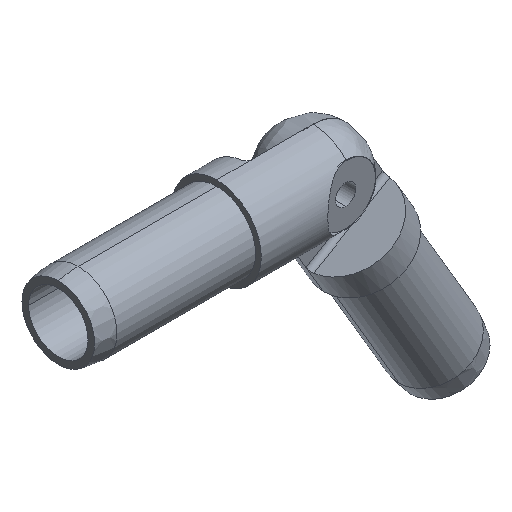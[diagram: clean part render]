
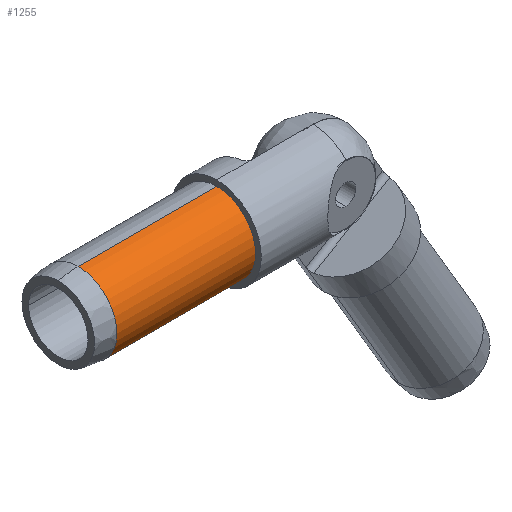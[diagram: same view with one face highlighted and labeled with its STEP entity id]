
A CAD part, isometric view. The second image highlights one B-rep face of the part: STEP entity #1255.
In plain terms, the highlighted cylindrical face has radius 12.446 mm (diameter 24.892 mm), a partial arc.
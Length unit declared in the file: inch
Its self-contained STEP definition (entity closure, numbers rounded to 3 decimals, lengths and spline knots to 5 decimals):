
#14 = EDGE_CURVE ( 'NONE', #190, #756, #550, .T. ) ;
#20 = LINE ( 'NONE', #625, #684 ) ;
#73 = CARTESIAN_POINT ( 'NONE',  ( 0.35418, 2.23616, 3.82654 ) ) ;
#81 = CARTESIAN_POINT ( 'NONE',  ( -1.39582, 2.23616, 2.84654 ) ) ;
#190 = VERTEX_POINT ( 'NONE', #73 ) ;
#202 = VERTEX_POINT ( 'NONE', #81 ) ;
#250 = CARTESIAN_POINT ( 'NONE',  ( -1.39582, 2.23616, 3.33654 ) ) ;
#267 = CIRCLE ( 'NONE', #903, 0.49 ) ;
#299 = AXIS2_PLACEMENT_3D ( 'NONE', #590, #1463, #715 ) ;
#372 = DIRECTION ( 'NONE',  ( 0., 0., 1. ) ) ;
#549 = CIRCLE ( 'NONE', #299, 0.49 ) ;
#550 = LINE ( 'NONE', #1542, #1547 ) ;
#590 = CARTESIAN_POINT ( 'NONE',  ( 0.35418, 2.23616, 3.33654 ) ) ;
#625 = CARTESIAN_POINT ( 'NONE',  ( -1.64582, 2.23616, 2.84654 ) ) ;
#632 = EDGE_CURVE ( 'NONE', #1398, #190, #549, .T. ) ;
#655 = ORIENTED_EDGE ( 'NONE', *, *, #632, .T. ) ;
#684 = VECTOR ( 'NONE', #753, 39.37008 ) ;
#715 = DIRECTION ( 'NONE',  ( 0., 0., 1. ) ) ;
#726 = ORIENTED_EDGE ( 'NONE', *, *, #848, .F. ) ;
#730 = CARTESIAN_POINT ( 'NONE',  ( -1.39582, 2.23616, 3.82654 ) ) ;
#753 = DIRECTION ( 'NONE',  ( -1., 0., 0. ) ) ;
#756 = VERTEX_POINT ( 'NONE', #730 ) ;
#770 = ORIENTED_EDGE ( 'NONE', *, *, #14, .T. ) ;
#787 = DIRECTION ( 'NONE',  ( -1., 0., 0. ) ) ;
#848 = EDGE_CURVE ( 'NONE', #1398, #202, #20, .T. ) ;
#889 = CARTESIAN_POINT ( 'NONE',  ( 0.35418, 2.23616, 2.84654 ) ) ;
#903 = AXIS2_PLACEMENT_3D ( 'NONE', #250, #1118, #372 ) ;
#921 = ORIENTED_EDGE ( 'NONE', *, *, #1272, .T. ) ;
#923 = CYLINDRICAL_SURFACE ( 'NONE', #1325, 0.49 ) ;
#979 = DIRECTION ( 'NONE',  ( 0., 0., 1. ) ) ;
#1104 = DIRECTION ( 'NONE',  ( -1., 0., 0. ) ) ;
#1118 = DIRECTION ( 'NONE',  ( 1., 0., 0. ) ) ;
#1255 = ADVANCED_FACE ( 'NONE', ( #1504 ), #923, .T. ) ;
#1272 = EDGE_CURVE ( 'NONE', #756, #202, #267, .T. ) ;
#1325 = AXIS2_PLACEMENT_3D ( 'NONE', #1357, #1104, #979 ) ;
#1357 = CARTESIAN_POINT ( 'NONE',  ( -1.64582, 2.23616, 3.33654 ) ) ;
#1398 = VERTEX_POINT ( 'NONE', #889 ) ;
#1463 = DIRECTION ( 'NONE',  ( -1., 0., 0. ) ) ;
#1504 = FACE_OUTER_BOUND ( 'NONE', #1517, .T. ) ;
#1517 = EDGE_LOOP ( 'NONE', ( #726, #655, #770, #921 ) ) ;
#1542 = CARTESIAN_POINT ( 'NONE',  ( -1.64582, 2.23616, 3.82654 ) ) ;
#1547 = VECTOR ( 'NONE', #787, 39.37008 ) ;
